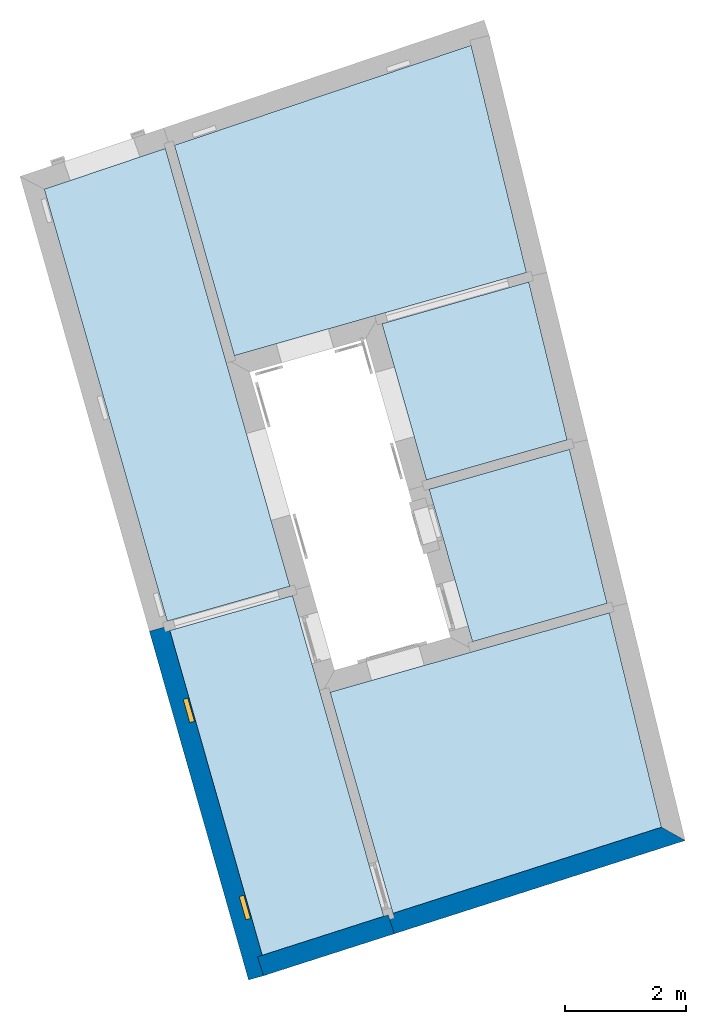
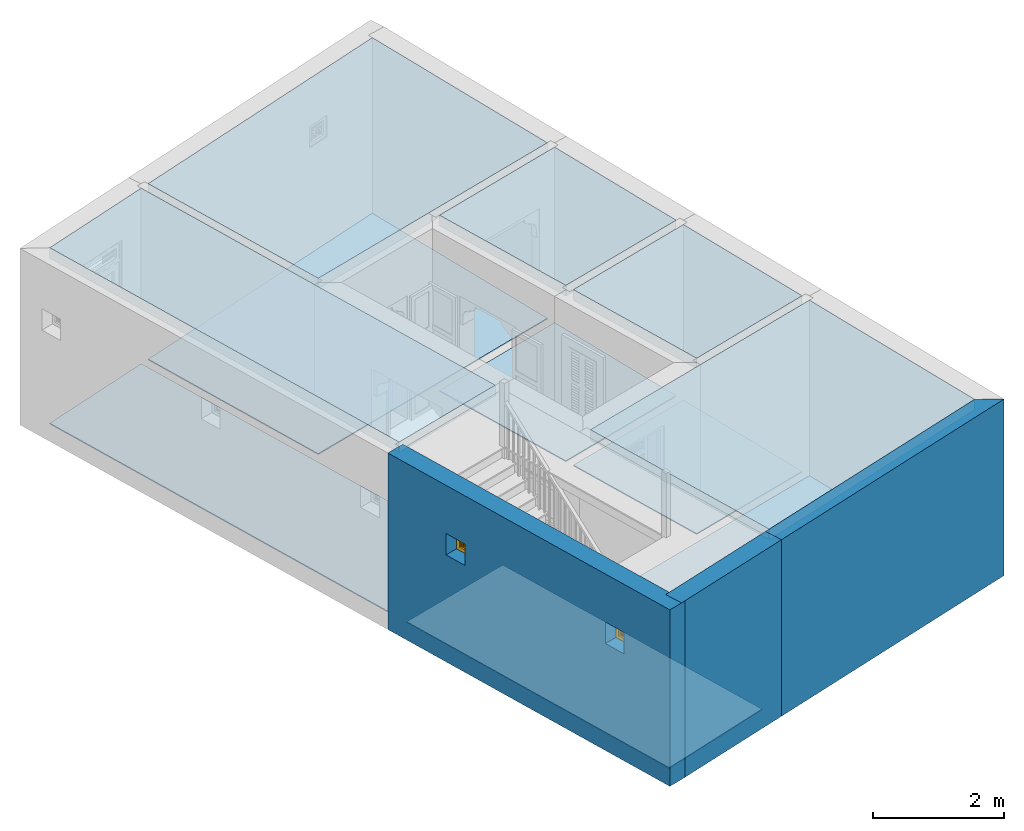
# One storey, part 1 of 14: 11 slabs, 3 walls, 2 windows, 2 openings.
"""IFC4 building model written with IfcOpenShell, lengths in metres."""

from ifc_helpers import new_model, si_unit, frame, origin, origin_with_axes, place, context, subcontext, project, spatial, polyline, outline, extrude, faceted_brep, source, transform, mapped, material, layer, layer_set, layer_usage, type_object, type_shapes, element, fill, save


model = new_model("IFC4")

# Units and contexts
model_context = context("Model", 3, world=origin_with_axes())
body_context = subcontext(model_context, "Body", "Model", "MODEL_VIEW")
ifc_project = project(units=[si_unit("PLANEANGLEUNIT", "RADIAN"), si_unit("MASSUNIT", "GRAM", prefix="KILO"), si_unit("FORCEUNIT", "NEWTON", prefix="KILO"), si_unit("LENGTHUNIT", "METRE"), si_unit("AREAUNIT", "SQUARE_METRE"), si_unit("VOLUMEUNIT", "CUBIC_METRE")], contexts=[model_context, model_context])

# Site, building, storey
site_placement = place(None, origin_with_axes())
site = spatial("IfcSite", under=ifc_project, at=site_placement, Name="Site plot-3", CompositionType="ELEMENT")
building_placement = place(None, origin_with_axes())
building = spatial("IfcBuilding", under=site, at=building_placement, Name="Building plot-3", CompositionType="ELEMENT")
storey_placement = place(None, origin_with_axes())
storey = spatial("IfcBuildingStorey", under=building, at=storey_placement, Name="plot-3 0", CompositionType="ELEMENT", Elevation=0.0)

# Slabs
slab_1_placement = place(storey_placement, frame((9.12165993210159, 28.721969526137, 3.1)))
element("IfcSlab", 1, at=slab_1_placement, inside=storey, Name="My Slab", ObjectType="Slab", PredefinedType="FLOOR", context=body_context, shape_type="SweptSolid", body=[
    extrude(outline(polyline([(0.0, 0.0), (0.9929182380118, -3.49052329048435), (5.8411386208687, -2.11139298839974), (4.92280784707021, 1.65962723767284), (0.0, 0.0)])), origin_with_axes(), (0.0, 0.0, 1.0), 0.2),
])
slab_2_placement = place(storey_placement, frame((9.12165993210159, 28.721969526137, 0.0)))
element("IfcSlab", 2, at=slab_2_placement, inside=storey, Name="My Slab", ObjectType="Slab", PredefinedType="FLOOR", context=body_context, shape_type="SweptSolid", body=[
    extrude(outline(polyline([(0.0, 0.0), (0.9929182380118, -3.49052329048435), (5.8411386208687, -2.11139298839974), (4.92280784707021, 1.65962723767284), (0.0, 0.0)])), origin_with_axes(), (0.0, 0.0, 1.0), 0.02),
])
slab_3_placement = place(storey_placement, frame((12.5657851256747, 25.7623718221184, 3.1)))
element("IfcSlab", 3, at=slab_3_placement, inside=storey, Name="My Slab", ObjectType="Slab", PredefinedType="FLOOR", context=body_context, shape_type="SweptSolid", body=[
    extrude(outline(polyline([(0.0, 0.0), (0.737588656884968, -2.59293291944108), (3.07321461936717, -1.92853809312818), (2.43489849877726, 0.692634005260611), (0.0, 0.0)])), origin_with_axes(), (0.0, 0.0, 1.0), 0.2),
])
slab_4_placement = place(storey_placement, frame((12.5657851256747, 25.7623718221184, 0.0)))
element("IfcSlab", 4, at=slab_4_placement, inside=storey, Name="My Slab", ObjectType="Slab", PredefinedType="FLOOR", context=body_context, shape_type="SweptSolid", body=[
    extrude(outline(polyline([(0.0, 0.0), (0.737588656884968, -2.59293291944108), (3.07321461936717, -1.92853809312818), (2.43489849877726, 0.692634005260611), (0.0, 0.0)])), origin_with_axes(), (0.0, 0.0, 1.0), 0.02),
])
slab_5_placement = place(storey_placement, frame((17.204175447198, 17.4066188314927, 3.1)))
element("IfcSlab", 5, at=slab_5_placement, inside=storey, Name="My Slab", ObjectType="Slab", PredefinedType="FLOOR", context=body_context, shape_type="SweptSolid", body=[
    extrude(outline(polyline([(0.0, 0.0), (-0.866430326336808, 3.5578969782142), (-5.50081554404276, 2.23959447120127), (-4.45711144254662, -1.42946239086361), (0.0, 0.0)])), origin_with_axes(), (0.0, 0.0, 1.0), 0.2),
])
slab_6_placement = place(storey_placement, frame((17.204175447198, 17.4066188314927, 0.0)))
element("IfcSlab", 6, at=slab_6_placement, inside=storey, Name="My Slab", ObjectType="Slab", PredefinedType="FLOOR", context=body_context, shape_type="SweptSolid", body=[
    extrude(outline(polyline([(0.0, 0.0), (-0.866430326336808, 3.5578969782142), (-5.50081554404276, 2.23959447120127), (-4.45711144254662, -1.42946239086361), (0.0, 0.0)])), origin_with_axes(), (0.0, 0.0, 1.0), 0.02),
])
slab_7_placement = place(storey_placement, frame((13.3471508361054, 23.01554423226, 3.1)))
element("IfcSlab", 7, at=slab_7_placement, inside=storey, Name="My Slab", ObjectType="Slab", PredefinedType="FLOOR", context=body_context, shape_type="SweptSolid", body=[
    extrude(outline(polyline([(0.0, 0.0), (0.719861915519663, -2.53061600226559), (2.95270921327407, -1.89545771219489), (2.32973398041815, 0.662718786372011), (0.0, 0.0)])), origin_with_axes(), (0.0, 0.0, 1.0), 0.2),
])
slab_8_placement = place(storey_placement, frame((13.3471508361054, 23.01554423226, 0.0)))
element("IfcSlab", 8, at=slab_8_placement, inside=storey, Name="My Slab", ObjectType="Slab", PredefinedType="FLOOR", context=body_context, shape_type="SweptSolid", body=[
    extrude(outline(polyline([(0.0, 0.0), (0.719861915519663, -2.53061600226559), (2.95270921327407, -1.89545771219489), (2.32973398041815, 0.662718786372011), (0.0, 0.0)])), origin_with_axes(), (0.0, 0.0, 1.0), 0.02),
])
slab_9_placement = place(storey_placement, frame((11.0807647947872, 21.2501145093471, 0.0)))
element("IfcSlab", 9, at=slab_9_placement, inside=storey, Name="My Slab", ObjectType="Slab", PredefinedType="FLOOR", context=body_context, shape_type="SweptSolid", body=[
    extrude(outline(polyline([(0.0, 0.0), (-2.03603314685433, -0.579172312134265), (-0.502932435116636, -5.96866314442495), (1.51385893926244, -5.32184794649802), (0.0, 0.0)])), origin_with_axes(), (0.0, 0.0, 1.0), 0.02),
])
slab_10_placement = place(storey_placement, frame((11.0369877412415, 21.4040091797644, 3.1)))
element("IfcSlab", 10, at=slab_10_placement, inside=storey, Name="My Slab", ObjectType="Slab", PredefinedType="FLOOR", context=body_context, shape_type="SweptSolid", body=[
    extrude(outline(polyline([(0.0, 0.0), (-2.0671185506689, 7.26678710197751), (-4.07531662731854, 6.58976286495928), (-2.03603314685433, -0.579172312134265), (0.0, 0.0)])), origin_with_axes(), (0.0, 0.0, 1.0), 0.2),
])
slab_11_placement = place(storey_placement, frame((11.0369877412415, 21.4040091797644, 0.0)))
element("IfcSlab", 11, at=slab_11_placement, inside=storey, Name="My Slab", ObjectType="Slab", PredefinedType="FLOOR", context=body_context, shape_type="SweptSolid", body=[
    extrude(outline(polyline([(0.0, 0.0), (-2.0671185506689, 7.26678710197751), (-4.07531662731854, 6.58976286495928), (-2.03603314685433, -0.579172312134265), (0.0, 0.0)])), origin_with_axes(), (0.0, 0.0, 1.0), 0.02),
])

# Wall, openings, windows
ifc_material_1 = material(Name="Masonry")
ifc_layer_1 = layer(ifc_material_1, 0.33, ventilated=False)
ifc_layer_set_1 = layer_set([ifc_layer_1], Name="exterior_0.08_0.25")
ifc_layer_usage_1 = layer_usage(ifc_layer_set_1, "AXIS2", "POSITIVE", -0.25)
wall_type_1 = type_object("IfcWallType", Name="exterior_0.08_0.25", PredefinedType="SOLIDWALL", material=ifc_layer_set_1)
wall_1_placement = place(storey_placement, frame((8.94589578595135, 20.7260010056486, 0.0), z_axis=(0.0, 0.0, 1.0), x_axis=(0.273606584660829, -0.96184169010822, 0.0)))
wall_1 = element("IfcWall", 12, at=wall_1_placement, inside=storey, type_object=wall_type_1, material=ifc_layer_usage_1, Name="exterior", context=body_context, shape_type="SweptSolid", body=[
    extrude(outline(polyline([(4.48987797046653e-16, 0.0800000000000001), (-4.90013464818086e-16, -0.249999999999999), (6.01600538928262, -0.250000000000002), (6.01600538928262, 0.0799999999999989), (4.48987797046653e-16, 0.0800000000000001)])), origin_with_axes(), (0.0, 0.0, 1.0), 3.3),
])
opening_1_placement = place(wall_1_placement, frame((1.24150134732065, 0.0, 2.0)))
opening_1 = element("IfcOpeningElement", 13, at=opening_1_placement, cuts=wall_1, Name="My Opening", ObjectType="Opening", context=body_context, shape_type="SweptSolid", body=[
    extrude(outline(polyline([(0.0, -0.270000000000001), (0.400000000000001, -0.27), (0.400000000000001, 1.1), (-4.44089209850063e-16, 1.1), (0.0, -0.270000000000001)])), origin_with_axes(), (0.0, 0.0, 1.0), 0.4),
])
opening_2_placement = place(wall_1_placement, frame((4.64150134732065, 0.0, 2.0)))
opening_2 = element("IfcOpeningElement", 14, at=opening_2_placement, cuts=wall_1, Name="My Opening", ObjectType="Opening", context=body_context, shape_type="SweptSolid", body=[
    extrude(outline(polyline([(0.0, -0.27), (0.4, -0.27), (0.399999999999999, 1.1), (-8.88178419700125e-16, 1.1), (0.0, -0.27)])), origin_with_axes(), (0.0, 0.0, 1.0), 0.4),
])
window_type = type_object("IfcWindowType", Name="barred_window", PartitioningType="DOUBLE_PANEL_HORIZONTAL", PredefinedType="NOTDEFINED")
shared_shape = source(origin(), body_context, "Body", "Brep", [
    faceted_brep([(0.4, 0.25, 0.4), (0.0, 0.25, 0.4), (0.06, 0.25, 0.34), (0.34, 0.25, 0.34), (0.06, 0.33, 0.34), (0.34, 0.33, 0.34), (0.34, 0.25, 0.06), (0.4, 0.25, 0.0), (0.4, 0.33, 0.4), (0.0, 0.33, 0.4), (0.0, 0.25, 0.0), (0.06, 0.25, 0.06), (0.06, 0.33, 0.06), (0.34, 0.33, 0.06), (0.4, 0.33, 0.0), (0.0, 0.33, 0.0), (0.136152, 0.28, 0.08), (0.08, 0.28, 0.08), (0.06, 0.28, 0.06), (0.136152, 0.28, 0.06), (0.136152, 0.29, 0.08), (0.08, 0.29, 0.08), (0.06, 0.28, 0.136152), (0.08, 0.28, 0.136152), (0.06, 0.29, 0.06), (0.136152, 0.29, 0.06), (0.170294, 0.28, 0.08), (0.170294, 0.28, 0.06), (0.136152, 0.28, 0.136152), (0.136152, 0.29, 0.136152), (0.08, 0.29, 0.136152), (0.06, 0.29, 0.136152), (0.08, 0.28, 0.170294), (0.06, 0.28, 0.170294), (0.170294, 0.29, 0.06), (0.229706, 0.28, 0.08), (0.229706, 0.28, 0.06), (0.156152, 0.28, 0.094142), (0.156152, 0.28, 0.136152), (0.185858, 0.28, 0.123848), (0.185858, 0.29, 0.123848), (0.156152, 0.29, 0.094142), (0.156152, 0.29, 0.136152), (0.229706, 0.29, 0.08), (0.170294, 0.29, 0.08), (0.2, 0.28, 0.109706), (0.2, 0.29, 0.109706), (0.06, 0.29, 0.170294), (0.094142, 0.28, 0.156152), (0.08, 0.28, 0.229706), (0.06, 0.28, 0.229706), (0.229706, 0.29, 0.06), (0.263848, 0.28, 0.08), (0.263848, 0.28, 0.06), (0.156152, 0.28, 0.156152), (0.136152, 0.28, 0.156152), (0.173553, 0.28, 0.136152), (0.173553, 0.29, 0.136152), (0.156152, 0.29, 0.156152), (0.136152, 0.29, 0.156152), (0.094142, 0.29, 0.156152), (0.08, 0.29, 0.170294), (0.06, 0.29, 0.229706), (0.123848, 0.28, 0.185858), (0.109706, 0.28, 0.2), (0.08, 0.29, 0.229706), (0.08, 0.28, 0.263848), (0.06, 0.28, 0.263848), (0.263848, 0.29, 0.06), (0.2, 0.28, 0.13799), (0.214142, 0.28, 0.123848), (0.34, 0.28, 0.06), (0.32, 0.28, 0.08), (0.181838, 0.28, 0.156152), (0.136152, 0.28, 0.173553), (0.156152, 0.28, 0.181838), (0.181838, 0.29, 0.156152), (0.2, 0.29, 0.13799), (0.214142, 0.29, 0.123848), (0.136152, 0.29, 0.173553), (0.156152, 0.29, 0.181838), (0.243848, 0.28, 0.094142), (0.243848, 0.29, 0.094142), (0.263848, 0.28, 0.136152), (0.263848, 0.29, 0.08), (0.263848, 0.29, 0.136152), (0.32, 0.29, 0.08), (0.243848, 0.28, 0.136152), (0.243848, 0.29, 0.136152), (0.06, 0.29, 0.263848), (0.123848, 0.29, 0.185858), (0.13799, 0.28, 0.2), (0.123848, 0.28, 0.214142), (0.109706, 0.29, 0.2), (0.094142, 0.28, 0.243848), (0.08, 0.28, 0.32), (0.06, 0.28, 0.34), (0.34, 0.29, 0.06), (0.218162, 0.28, 0.156152), (0.226447, 0.28, 0.136152), (0.34, 0.28, 0.229706), (0.32, 0.28, 0.229706), (0.32, 0.28, 0.170294), (0.32, 0.28, 0.136152), (0.218162, 0.29, 0.156152), (0.226447, 0.29, 0.136152), (0.13799, 0.29, 0.2), (0.32, 0.29, 0.136152), (0.08, 0.29, 0.263848), (0.06, 0.29, 0.34), (0.136152, 0.28, 0.226447), (0.156152, 0.28, 0.218162), (0.094142, 0.29, 0.243848), (0.123848, 0.29, 0.214142), (0.136152, 0.28, 0.243848), (0.136152, 0.28, 0.263848), (0.08, 0.29, 0.32), (0.136152, 0.28, 0.34), (0.136152, 0.28, 0.32), (0.34, 0.29, 0.229706), (0.243848, 0.28, 0.156152), (0.263848, 0.28, 0.156152), (0.34, 0.28, 0.263848), (0.32, 0.28, 0.263848), (0.32, 0.29, 0.229706), (0.32, 0.29, 0.170294), (0.290294, 0.28, 0.2), (0.276152, 0.28, 0.185858), (0.305858, 0.28, 0.156152), (0.243848, 0.29, 0.156152), (0.263848, 0.29, 0.156152), (0.305858, 0.29, 0.156152), (0.276152, 0.29, 0.185858), (0.290294, 0.29, 0.2), (0.136152, 0.29, 0.34), (0.136152, 0.29, 0.226447), (0.156152, 0.29, 0.218162), (0.156152, 0.28, 0.243848), (0.136152, 0.29, 0.243848), (0.156152, 0.28, 0.263848), (0.136152, 0.29, 0.263848), (0.136152, 0.29, 0.32), (0.170294, 0.28, 0.32), (0.170294, 0.28, 0.34), (0.34, 0.29, 0.263848), (0.243848, 0.28, 0.181838), (0.263848, 0.28, 0.173553), (0.34, 0.28, 0.34), (0.32, 0.28, 0.32), (0.305858, 0.28, 0.243848), (0.276152, 0.28, 0.214142), (0.26201, 0.28, 0.2), (0.243848, 0.29, 0.181838), (0.263848, 0.29, 0.173553), (0.26201, 0.29, 0.2), (0.276152, 0.29, 0.214142), (0.32, 0.29, 0.263848), (0.170294, 0.29, 0.34), (0.156152, 0.29, 0.243848), (0.173553, 0.28, 0.263848), (0.181838, 0.28, 0.243848), (0.156152, 0.28, 0.305858), (0.229706, 0.28, 0.32), (0.229706, 0.28, 0.34), (0.34, 0.29, 0.34), (0.263848, 0.28, 0.34), (0.263848, 0.28, 0.32), (0.32, 0.29, 0.32), (0.263848, 0.28, 0.263848), (0.263848, 0.28, 0.243848), (0.305858, 0.29, 0.243848), (0.263848, 0.28, 0.226447), (0.243848, 0.28, 0.218162), (0.243848, 0.29, 0.218162), (0.263848, 0.29, 0.226447), (0.156152, 0.29, 0.263848), (0.170294, 0.29, 0.32), (0.229706, 0.29, 0.34), (0.181838, 0.29, 0.243848), (0.173553, 0.29, 0.263848), (0.185858, 0.28, 0.276152), (0.2, 0.28, 0.26201), (0.156152, 0.29, 0.305858), (0.229706, 0.29, 0.32), (0.263848, 0.29, 0.34), (0.263848, 0.29, 0.32), (0.263848, 0.29, 0.263848), (0.243848, 0.28, 0.243848), (0.243848, 0.28, 0.263848), (0.263848, 0.29, 0.243848), (0.243848, 0.29, 0.243848), (0.2, 0.29, 0.26201), (0.185858, 0.29, 0.276152), (0.214142, 0.28, 0.276152), (0.218162, 0.28, 0.243848), (0.226447, 0.28, 0.263848), (0.243848, 0.28, 0.305858), (0.2, 0.28, 0.290294), (0.2, 0.29, 0.290294), (0.243848, 0.29, 0.263848), (0.218162, 0.29, 0.243848), (0.214142, 0.29, 0.276152), (0.226447, 0.29, 0.263848), (0.243848, 0.29, 0.305858)], [[[0, 1, 2, 3]], [[3, 2, 4, 5]], [[3, 6, 7, 0]], [[1, 0, 8, 9]], [[1, 10, 11, 2]], [[2, 11, 12, 4]], [[9, 8, 5, 4]], [[6, 3, 5, 13]], [[6, 11, 10, 7]], [[0, 7, 14, 8]], [[10, 1, 9, 15]], [[11, 6, 13, 12]], [[4, 12, 15, 9]], [[8, 14, 13, 5]], [[7, 10, 15, 14]], [[12, 13, 14, 15]], [[16, 17, 18, 19]], [[17, 16, 20, 21]], [[22, 18, 17, 23]], [[19, 18, 24, 25]], [[26, 16, 19, 27]], [[16, 28, 29, 20]], [[21, 20, 25, 24]], [[23, 17, 21, 30]], [[18, 22, 31, 24]], [[23, 32, 33, 22]], [[27, 19, 25, 34]], [[35, 26, 27, 36]], [[28, 16, 37, 38]], [[37, 39, 40, 41]], [[38, 37, 41, 42]], [[20, 29, 42, 41]], [[26, 35, 43, 44]], [[45, 26, 44, 46]], [[20, 44, 34, 25]], [[28, 23, 30, 29]], [[24, 31, 30, 21]], [[22, 33, 47, 31]], [[48, 32, 23]], [[32, 49, 50, 33]], [[36, 27, 34, 51]], [[39, 37, 26, 45]], [[52, 35, 36, 53]], [[38, 54, 55, 28]], [[39, 56, 57, 40]], [[41, 40, 46, 44]], [[56, 38, 42, 57]], [[58, 42, 29, 59]], [[35, 45, 46, 43]], [[44, 43, 51, 34]], [[23, 28, 55, 48]], [[29, 30, 60, 59]], [[61, 30, 31, 47]], [[33, 50, 62, 47]], [[48, 63, 64, 32]], [[49, 32, 61, 65]], [[49, 66, 67, 50]], [[53, 36, 51, 68]], [[69, 39, 45, 70]], [[53, 71, 72, 52]], [[73, 54, 38, 56]], [[74, 55, 54, 75]], [[56, 39, 69, 73]], [[40, 57, 76, 77]], [[40, 77, 78, 46]], [[58, 76, 57, 42]], [[59, 79, 80, 58]], [[45, 35, 81, 70]], [[43, 46, 78, 82]], [[83, 52, 84, 85]], [[82, 84, 43]], [[52, 72, 86, 84]], [[43, 84, 68, 51]], [[44, 20, 41]], [[70, 81, 82, 78]], [[81, 87, 88, 82]], [[48, 55, 59, 60]], [[61, 60, 30]], [[65, 61, 47, 62]], [[50, 67, 89, 62]], [[63, 48, 60, 90]], [[63, 91, 92, 64]], [[32, 64, 93, 61]], [[64, 49, 65, 93]], [[94, 66, 49]], [[66, 95, 96, 67]], [[71, 53, 68, 97]], [[98, 69, 70, 99]], [[81, 52, 83, 87]], [[72, 71, 100]], [[100, 101, 102]], [[103, 72, 100]], [[100, 102, 103]], [[54, 73, 76, 58]], [[55, 74, 79, 59]], [[75, 54, 58, 80]], [[63, 74, 75, 91]], [[73, 69, 77, 76]], [[77, 104, 105, 78]], [[79, 90, 106, 80]], [[84, 82, 88, 85]], [[103, 83, 85, 107]], [[72, 103, 107, 86]], [[97, 68, 84, 86]], [[99, 70, 78, 105]], [[87, 99, 105, 88]], [[90, 60, 61, 93]], [[108, 65, 62, 89]], [[67, 96, 109, 89]], [[74, 63, 90, 79]], [[110, 92, 91, 111]], [[49, 64, 92, 94]], [[93, 65, 112, 113]], [[94, 114, 115, 66]], [[95, 66, 108, 116]], [[117, 96, 95, 118]], [[100, 71, 97, 119]], [[69, 98, 104, 77]], [[99, 87, 120, 98]], [[87, 83, 121, 120]], [[101, 100, 122, 123]], [[102, 101, 124, 125]], [[121, 83, 103]], [[103, 102, 126]], [[126, 127, 128]], [[128, 121, 103]], [[103, 126, 128]], [[91, 75, 80, 106]], [[88, 105, 104, 129]], [[106, 90, 93, 113]], [[85, 88, 129, 130]], [[107, 85, 130]], [[131, 132, 133]], [[107, 130, 131]], [[133, 125, 107]], [[107, 131, 133]], [[124, 119, 97]], [[97, 86, 107]], [[107, 125, 124]], [[97, 107, 124]], [[108, 112, 65]], [[116, 108, 89, 109]], [[96, 117, 134, 109]], [[92, 110, 135, 113]], [[111, 91, 106, 136]], [[114, 110, 111, 137]], [[94, 92, 113, 112]], [[114, 94, 112, 138]], [[114, 137, 139, 115]], [[66, 115, 140, 108]], [[118, 95, 116, 141]], [[118, 142, 143, 117]], [[122, 100, 119, 144]], [[98, 120, 129, 104]], [[145, 120, 121, 146]], [[122, 147, 148, 123]], [[123, 149, 101]], [[101, 126, 133, 124]], [[126, 102, 125, 133]], [[127, 126, 150, 151]], [[128, 127, 132, 131]], [[121, 128, 131, 130]], [[113, 135, 136, 106]], [[129, 152, 153, 130]], [[133, 132, 154, 155]], [[119, 124, 156, 144]], [[138, 112, 108, 140]], [[109, 134, 141, 116]], [[117, 143, 157, 134]], [[110, 114, 138, 135]], [[137, 111, 136, 158]], [[159, 139, 137, 160]], [[118, 115, 139, 161]], [[115, 118, 141, 140]], [[161, 142, 118]], [[162, 163, 143, 142]], [[147, 122, 144, 164]], [[120, 145, 152, 129]], [[146, 121, 130, 153]], [[146, 127, 151, 145]], [[147, 165, 166, 148]], [[123, 148, 167, 156]], [[149, 123, 168, 169]], [[149, 150, 126, 101]], [[155, 170, 124, 133]], [[151, 150, 171, 172]], [[127, 146, 153, 132]], [[135, 138, 158, 136]], [[132, 153, 152, 154]], [[155, 154, 173, 174]], [[170, 156, 124]], [[164, 144, 156, 167]], [[158, 138, 140, 175]], [[176, 141, 134, 157]], [[143, 163, 177, 157]], [[160, 137, 158, 178]], [[139, 159, 179, 175]], [[180, 159, 160, 181]], [[161, 139, 175, 182]], [[140, 141, 182, 175]], [[166, 165, 163, 162]], [[162, 142, 176, 183]], [[165, 147, 164, 184]], [[145, 151, 154, 152]], [[148, 166, 185, 167]], [[156, 186, 168, 123]], [[187, 169, 168, 188]], [[149, 169, 189, 170]], [[150, 149, 170, 155]], [[171, 150, 155, 174]], [[171, 169, 187, 172]], [[151, 172, 173, 154]], [[189, 174, 173, 190]], [[156, 170, 189, 186]], [[184, 164, 167, 185]], [[175, 179, 178, 158]], [[176, 182, 141]], [[177, 183, 176, 157]], [[163, 165, 184, 177]], [[181, 160, 178, 191]], [[159, 180, 192, 179]], [[180, 161, 182, 192]], [[193, 181, 194, 195]], [[196, 162, 197, 193]], [[180, 197, 142, 161]], [[197, 180, 181, 193]], [[142, 197, 198, 176]], [[162, 196, 166]], [[35, 52, 81]], [[197, 162, 183, 198]], [[185, 166, 168, 186]], [[196, 188, 168, 166]], [[187, 188, 195, 194]], [[169, 171, 174, 189]], [[172, 187, 190, 173]], [[189, 190, 199, 186]], [[184, 185, 183, 177]], [[179, 192, 191, 178]], [[176, 198, 192, 182]], [[194, 181, 191, 200]], [[191, 192, 198, 201]], [[26, 37, 16]], [[193, 195, 202, 201]], [[196, 193, 201, 203]], [[191, 201, 202, 200]], [[183, 203, 201, 198]], [[188, 196, 203, 199]], [[203, 183, 185]], [[199, 203, 185, 186]], [[195, 188, 199, 202]], [[187, 194, 200, 190]], [[199, 190, 200, 202]]]),
])
type_shapes(window_type, [shared_shape])
window_1_placement = place(storey_placement, frame((9.02588147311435, 19.4579994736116, 2.0), z_axis=(0.0, 0.0, 1.0), x_axis=(0.109442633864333, -0.384736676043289, 0.0)))
window_1 = element("IfcWindow", 15, at=window_1_placement, inside=storey, type_object=window_type, Name="circulation street window", OverallHeight=0.4, OverallWidth=0.4, context=body_context, shape_type="MappedRepresentation", body=[
    mapped(shared_shape, transform((0.0, 0.0, 0.0), scale=1.0)),
])
fill(opening_1, window_1)
window_2_placement = place(storey_placement, frame((9.95614386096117, 16.1877377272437, 2.0), z_axis=(0.0, 0.0, 1.0), x_axis=(0.109442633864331, -0.384736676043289, 0.0)))
window_2 = element("IfcWindow", 16, at=window_2_placement, inside=storey, type_object=window_type, Name="circulation street window", OverallHeight=0.4, OverallWidth=0.4, context=body_context, shape_type="MappedRepresentation", body=[
    mapped(shared_shape, transform((0.0, 0.0, 0.0), scale=1.0)),
])
fill(opening_2, window_2)

# Walls
ifc_material_2 = material(Name="Masonry")
ifc_layer_2 = layer(ifc_material_2, 0.33, ventilated=False)
ifc_layer_set_2 = layer_set([ifc_layer_2], Name="party_0.08_0.25")
ifc_layer_usage_2 = layer_usage(ifc_layer_set_2, "AXIS2", "POSITIVE", -0.25)
wall_type_2 = type_object("IfcWallType", Name="party_0.08_0.25", PredefinedType="SOLIDWALL", material=ifc_layer_set_2)
wall_2_placement = place(storey_placement, frame((10.5235128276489, 15.1800166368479, 0.0), z_axis=(0.0, 0.0, 1.0), x_axis=(0.952226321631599, 0.305393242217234, 0.0)))
element("IfcWall", 17, at=wall_2_placement, inside=storey, type_object=wall_type_2, material=ifc_layer_usage_2, Name="party", context=body_context, shape_type="SweptSolid", body=[
    extrude(outline(polyline([(-2.26027801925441e-16, 0.0799999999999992), (3.48374992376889e-16, -0.25), (2.27806309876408, -0.25), (2.27806309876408, 0.0799999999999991), (-2.26027801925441e-16, 0.0799999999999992)])), origin_with_axes(), (0.0, 0.0, 1.0), 3.3),
])
wall_3_placement = place(storey_placement, frame((12.6927444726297, 15.8757217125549, 0.0), z_axis=(0.0, 0.0, 1.0), x_axis=(0.952226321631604, 0.305393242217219, 0.0)))
element("IfcWall", 18, at=wall_3_placement, inside=storey, type_object=wall_type_2, material=ifc_layer_usage_2, Name="party", context=body_context, shape_type="SweptSolid", body=[
    extrude(outline(polyline([(-1.4694775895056e-15, 0.0799999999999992), (4.23415557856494e-15, -0.25), (5.07064583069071, -0.249999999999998), (4.76342895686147, 0.0799999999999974), (-1.4694775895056e-15, 0.0799999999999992)])), origin_with_axes(), (0.0, 0.0, 1.0), 3.3),
])

save(model, "model.ifc")
